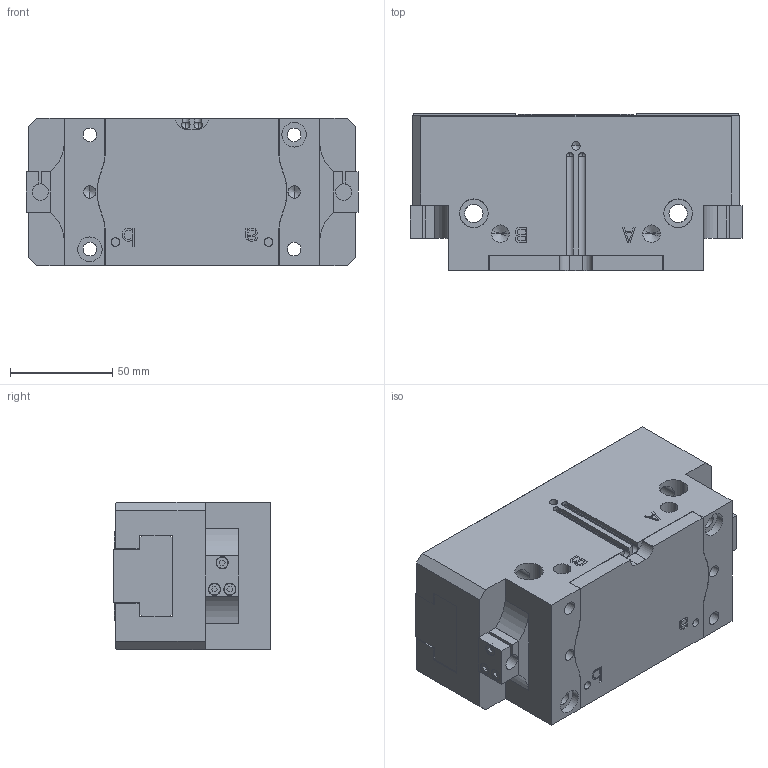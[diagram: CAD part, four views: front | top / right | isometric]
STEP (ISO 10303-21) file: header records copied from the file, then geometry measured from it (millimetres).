
FILE_DESCRIPTION (( 'STEP AP214' ), '1' );
FILE_NAME ('FPT-160A-1.STEP', '2020-07-06T23:27:40', ( '' ), ( '' ), 'SwSTEP 2.0', 'SolidWorks 2016', '' );
FILE_SCHEMA (( 'AUTOMOTIVE_DESIGN' ));
Length unit declared in the file: millimetre
Products named in the file (6): FPT-160A-1; NAUO2; NAUO8; NAUO3; NAUO1; NAUO4
Assembly tree (7 placements, depth 2):
  FPT-160A-1
    NAUO1
    NAUO2
    NAUO3
    NAUO4  x2
    NAUO8  x2
Bounding box: 162.5 x 77 x 72 mm (x, y, z)
Volume: 751603.1 mm3; surface area: 134091.7 mm2
Topology: 7 solids, 7 shells, 603 faces, 1597 edges, 1030 vertices
Faces by surface type: plane 359, cylinder 180, cone 60, sphere 4
Entity records: 16761 total; most frequent: CARTESIAN_POINT 3471, DIRECTION 2717, ORIENTED_EDGE 2682, EDGE_CURVE 1341, VECTOR 965, LINE 965, VERTEX_POINT 892, AXIS2_PLACEMENT_3D 876
